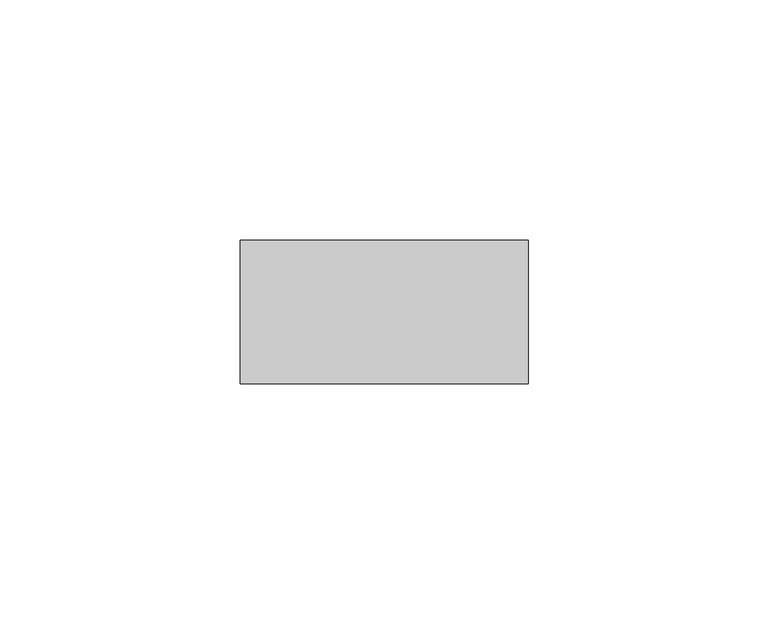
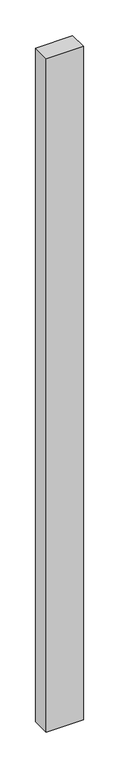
"""IFC4 building model written with IfcOpenShell, lengths in millimetres: member geometry, Прямоугольный импост : Квадрат 30 мм."""

import ifcopenshell
import ifcopenshell.guid

model = None  # the IFC model being written
_history = None  # IfcOwnerHistory: only IFC2X3 demands one
_inside = {}  # id of a spatial element -> (the spatial element, [elements in it])
_under = {}  # id of a project, library or spatial element -> (it, [spatial elements below it])
_declared = {}  # id of a project -> (the project, [libraries it declares])
_typed = {}  # id of a type object -> (the type object, [elements of that type])
_made_of = {}  # id of a material, layer set ... -> (it, [elements and type objects made of it])


def new_model(schema):
    """Start an empty IFC model of exactly this schema.

    Asked for "IFC4X3", IfcOpenShell would pick the latest addendum, in which some entities
    have other attributes; the version numbers below select the first issue.
    IFC2X3 requires an IfcOwnerHistory on every rooted entity: one is made here for all.
    """
    global model, _history
    if schema == "IFC4X3":
        model = ifcopenshell.file(schema_version=(4, 3, 0, 0))
    else:
        model = ifcopenshell.file(schema=schema)
    _inside.clear()
    _under.clear()
    _declared.clear()
    _typed.clear()
    _made_of.clear()
    _history = None
    if model.schema == "IFC2X3":
        org = make("IfcOrganization", Name="unknown")
        user = make(
            "IfcPersonAndOrganization",
            ThePerson=make("IfcPerson", FamilyName="unknown"),
            TheOrganization=org,
        )
        app = make(
            "IfcApplication",
            ApplicationDeveloper=org,
            Version="unknown",
            ApplicationFullName="unknown",
            ApplicationIdentifier="unknown",
        )
        _history = make(
            "IfcOwnerHistory",
            OwningUser=user,
            OwningApplication=app,
            ChangeAction="ADDED",
            CreationDate=0,
        )
    return model


def make(cls, **values):
    """One entity of the class cls with the attributes given. An attribute that is None is left unset."""
    return model.create_entity(
        cls, **{name: value for name, value in values.items() if value is not None}
    )


def rooted(cls, **values):
    """An entity with a GlobalId (a new one), such as an element, a storey or a relation."""
    return make(cls, GlobalId=ifcopenshell.guid.new(), OwnerHistory=_history, **values)


def si_unit(unit_type, name, prefix=None):
    """IfcSIUnit, for example si_unit("LENGTHUNIT", "METRE", prefix="MILLI")."""
    return make("IfcSIUnit", UnitType=unit_type, Prefix=prefix, Name=name)


def assignment(units):
    """IfcUnitAssignment: the units of a project."""
    return None if units is None else make("IfcUnitAssignment", Units=units)


def point(xyz):
    """IfcCartesianPoint."""
    return None if xyz is None else make("IfcCartesianPoint", Coordinates=xyz)


def direction(xyz):
    """IfcDirection."""
    return None if xyz is None else make("IfcDirection", DirectionRatios=xyz)


def frame(location, z_axis=None, x_axis=None):
    """IfcAxis2Placement3D, a coordinate frame: its origin and axes. An axis left out is left unset."""
    return make(
        "IfcAxis2Placement3D",
        Location=point(location),
        Axis=direction(z_axis),
        RefDirection=direction(x_axis),
    )


def origin():
    """The frame at (0, 0, 0) with its axes left unset."""
    return frame((0.0, 0.0, 0.0))


def place(relative_to, where):
    """IfcLocalPlacement: puts the frame where relative to a parent placement (None: the world)."""
    return make(
        "IfcLocalPlacement", PlacementRelTo=relative_to, RelativePlacement=where
    )


def context(
    kind, dimensions, precision=None, world=None, true_north=None, identifier=None
):
    """IfcGeometricRepresentationContext, for example the 3D "Model" context."""
    return make(
        "IfcGeometricRepresentationContext",
        ContextIdentifier=identifier,
        ContextType=kind,
        CoordinateSpaceDimension=dimensions,
        Precision=precision,
        WorldCoordinateSystem=world,
        TrueNorth=true_north,
    )


def project(units=None, contexts=None):
    """IfcProject with its units and contexts."""
    return rooted(
        "IfcProject",
        Name="project",
        RepresentationContexts=contexts,
        UnitsInContext=assignment(units),
    )


def spatial(cls, under=None, at=None, **own):
    """A site, building, storey or space (cls), placed at a placement, below another one or the project."""
    s = rooted(cls, ObjectPlacement=at, **own)
    if under is not None:
        _under.setdefault(under.id(), (under, []))[1].append(s)
    return s


def polyline(points):
    """IfcPolyline through the points."""
    return make("IfcPolyline", Points=[point(p) for p in points])


def outline(outer, holes=None, kind="AREA"):
    """IfcArbitraryClosedProfileDef: a profile drawn as a closed curve; with holes, ...WithVoids."""
    if holes is None:
        return make("IfcArbitraryClosedProfileDef", ProfileType=kind, OuterCurve=outer)
    return make(
        "IfcArbitraryProfileDefWithVoids",
        ProfileType=kind,
        OuterCurve=outer,
        InnerCurves=holes,
    )


def extrude(swept, where, along, depth):
    """IfcExtrudedAreaSolid: the profile swept, set in the frame where, extruded along a direction by depth."""
    return make(
        "IfcExtrudedAreaSolid",
        SweptArea=swept,
        Position=where,
        ExtrudedDirection=direction(along),
        Depth=depth,
    )


def shape(context_of_items, identifier, shape_type, items):
    """IfcShapeRepresentation: the items that make up one representation, for example the "Body"."""
    return make(
        "IfcShapeRepresentation",
        ContextOfItems=context_of_items,
        RepresentationIdentifier=identifier,
        RepresentationType=shape_type,
        Items=items,
    )


def source(mapping_origin, context_of_items, identifier, shape_type, items):
    """IfcRepresentationMap: a shape defined once, which mapped items show again and again."""
    return make(
        "IfcRepresentationMap",
        MappingOrigin=mapping_origin,
        MappedRepresentation=shape(context_of_items, identifier, shape_type, items),
    )


def transform(
    local_origin,
    x_axis=None,
    y_axis=None,
    z_axis=None,
    scale=None,
    scale2=None,
    scale3=None,
    uniform=True,
):
    """IfcCartesianTransformationOperator3D, or its non-uniform kind. x_axis, y_axis, z_axis: its Axis1, 2, 3."""
    if uniform:
        return make(
            "IfcCartesianTransformationOperator3D",
            Axis1=direction(x_axis),
            Axis2=direction(y_axis),
            LocalOrigin=point(local_origin),
            Scale=scale,
            Axis3=direction(z_axis),
        )
    return make(
        "IfcCartesianTransformationOperator3DnonUniform",
        Axis1=direction(x_axis),
        Axis2=direction(y_axis),
        LocalOrigin=point(local_origin),
        Scale=scale,
        Axis3=direction(z_axis),
        Scale2=scale2,
        Scale3=scale3,
    )


def mapped(mapping_source, mapping_target):
    """IfcMappedItem: shows the shape of a source again, moved by a transform."""
    return make(
        "IfcMappedItem", MappingSource=mapping_source, MappingTarget=mapping_target
    )


def made_of(thing, what):
    """Note that an element or type object is made of a material, layer set ...; save() writes the relation."""
    if what is not None:
        _made_of.setdefault(what.id(), (what, []))[1].append(thing)
    return thing


def element(
    cls,
    number,
    at=None,
    inside=None,
    cuts=None,
    type_object=None,
    material=None,
    context=None,
    identifier="Body",
    shape_type=None,
    held_by="IfcProductDefinitionShape",
    body=None,
    shapes=None,
    **own,
):
    """One element of the class cls, such as IfcWall. Its Tag is "e" and its number.

    at: its placement. inside: the storey or other place that contains it. cuts: it is an
    opening in that element (IfcRelVoidsElement). A single representation is given by context,
    identifier, shape_type and body (its items); several are given by shapes. held_by: the class
    of the entity that holds the representations. save() writes the other relations.
    """
    e = rooted(cls, Tag="e%d" % number, ObjectPlacement=at, **own)
    if body is not None:
        shapes = [shape(context, identifier, shape_type, body)]
    if shapes is not None:
        e.Representation = make(held_by, Representations=shapes)
    if inside is not None:
        _inside.setdefault(inside.id(), (inside, []))[1].append(e)
    if cuts is not None:
        rooted(
            "IfcRelVoidsElement", RelatingBuildingElement=cuts, RelatedOpeningElement=e
        )
    if type_object is not None:
        _typed.setdefault(type_object.id(), (type_object, []))[1].append(e)
    return made_of(e, material)


def aggregate(whole, parts):
    """IfcRelAggregates: a whole, such as a stair, and the parts it consists of."""
    return rooted("IfcRelAggregates", RelatingObject=whole, RelatedObjects=parts)


def save(model, path):
    """Write the relations noted so far, then the file.

    IfcRelAggregates (storeys below a building ...), IfcRelContainedInSpatialStructure (elements
    in a storey), IfcRelDefinesByType, IfcRelAssociatesMaterial and IfcRelDeclares: one each for
    every whole, place, type object, material and project.
    """
    for whole, parts in _under.values():
        aggregate(whole, parts)
    for where, things in _inside.values():
        rooted(
            "IfcRelContainedInSpatialStructure",
            RelatedElements=things,
            RelatingStructure=where,
        )
    for kind, things in _typed.values():
        rooted("IfcRelDefinesByType", RelatedObjects=things, RelatingType=kind)
    for what, things in _made_of.values():
        rooted("IfcRelAssociatesMaterial", RelatedObjects=things, RelatingMaterial=what)
    for by, libraries in _declared.values():
        rooted("IfcRelDeclares", RelatingContext=by, RelatedDefinitions=libraries)
    model.write(path)


def member_2c7e9794(model_context):
    return source(origin(), model_context, "Body", "SweptSolid", [
        extrude(outline(polyline([(30.0, 15.0), (30.0, -15.0), (-30.0, -15.0), (-30.0, 15.0), (30.0, 15.0)])), frame((0.0, 0.0, -1150.0), z_axis=(0.0, 0.0, 1.0), x_axis=(1.0, 0.0, 0.0)), (0.0, 0.0, 1.0), 1150.0),
    ])


if __name__ == "__main__":
    model = new_model("IFC4")
    model_context = context("Model", 3, world=origin())
    ifc_project = project(units=[si_unit("LENGTHUNIT", "METRE", prefix="MILLI")], contexts=[model_context])
    site = spatial("IfcSite", under=ifc_project)
    building = spatial("IfcBuilding", under=site)
    placement = place(None, origin())
    member_shape = member_2c7e9794(model_context)
    element("IfcMember", 1, ObjectType="Прямоугольный импост : Квадрат 30 мм", at=placement, inside=building, context=model_context, shape_type="MappedRepresentation", body=[
        mapped(member_shape, transform((0.0, 0.0, 0.0), x_axis=(1.0, 0.0, 0.0), y_axis=(0.0, 1.0, 0.0), z_axis=(0.0, 0.0, 1.0))),
    ])
    save(model, "model.ifc")
